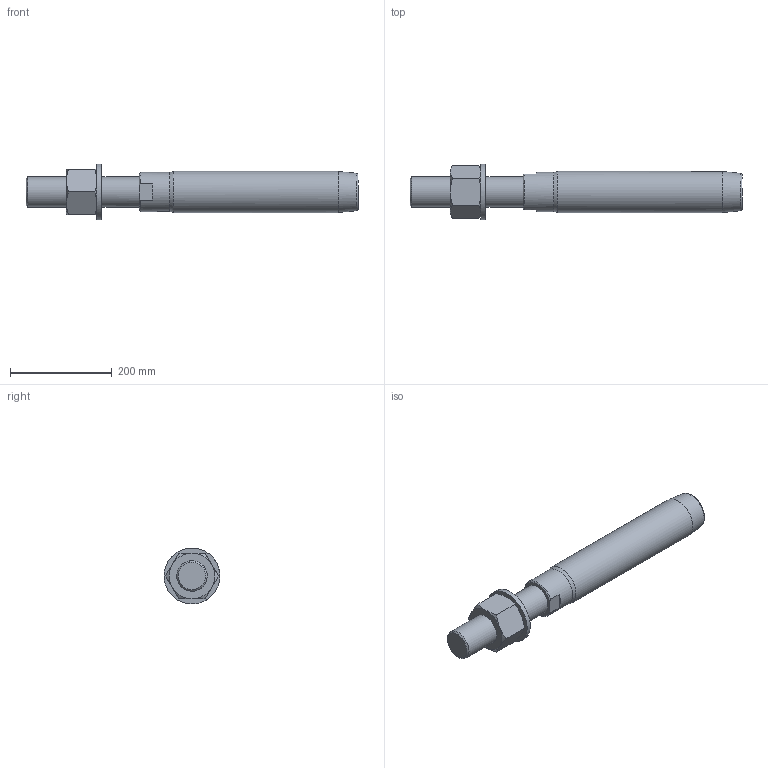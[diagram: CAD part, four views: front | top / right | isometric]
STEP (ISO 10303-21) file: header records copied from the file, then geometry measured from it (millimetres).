
FILE_DESCRIPTION(/* description */ (''),/* implementation_level */ '2;1');
FILE_NAME(/* name */ 'FLT 40_1,4462',/* time_stamp */ '2023-05-23T15:58:09+02:00',/* author */ (''),/* organization */ (''),/* preprocessor_version */ 'ST-DEVELOPER v16.5',/* originating_system */ 'Rhino 7.22',/* authorisation */ '');
FILE_SCHEMA (('CONFIG_CONTROL_DESIGN'));
Length unit declared in the file: millimetre
Products named in the file (1): Document
Bounding box: 654 x 109.97 x 109.97 mm (x, y, z)
Volume: 3133948.8 mm3; surface area: 213664.1 mm2
Topology: 3 solids, 3 shells, 43 faces, 103 edges, 67 vertices
Faces by surface type: bspline 20, plane 17, cylinder 6
Full cylindrical faces by diameter (mm): 54.046 x1, 60 x1, 62 x1, 77 x1, 81 x1, 110 x1
Entity records: 1586 total; most frequent: CARTESIAN_POINT 881, ORIENTED_EDGE 206, EDGE_CURVE 103, VERTEX_POINT 67, EDGE_LOOP 48, ADVANCED_FACE 43, FACE_OUTER_BOUND 43, DIRECTION 27
